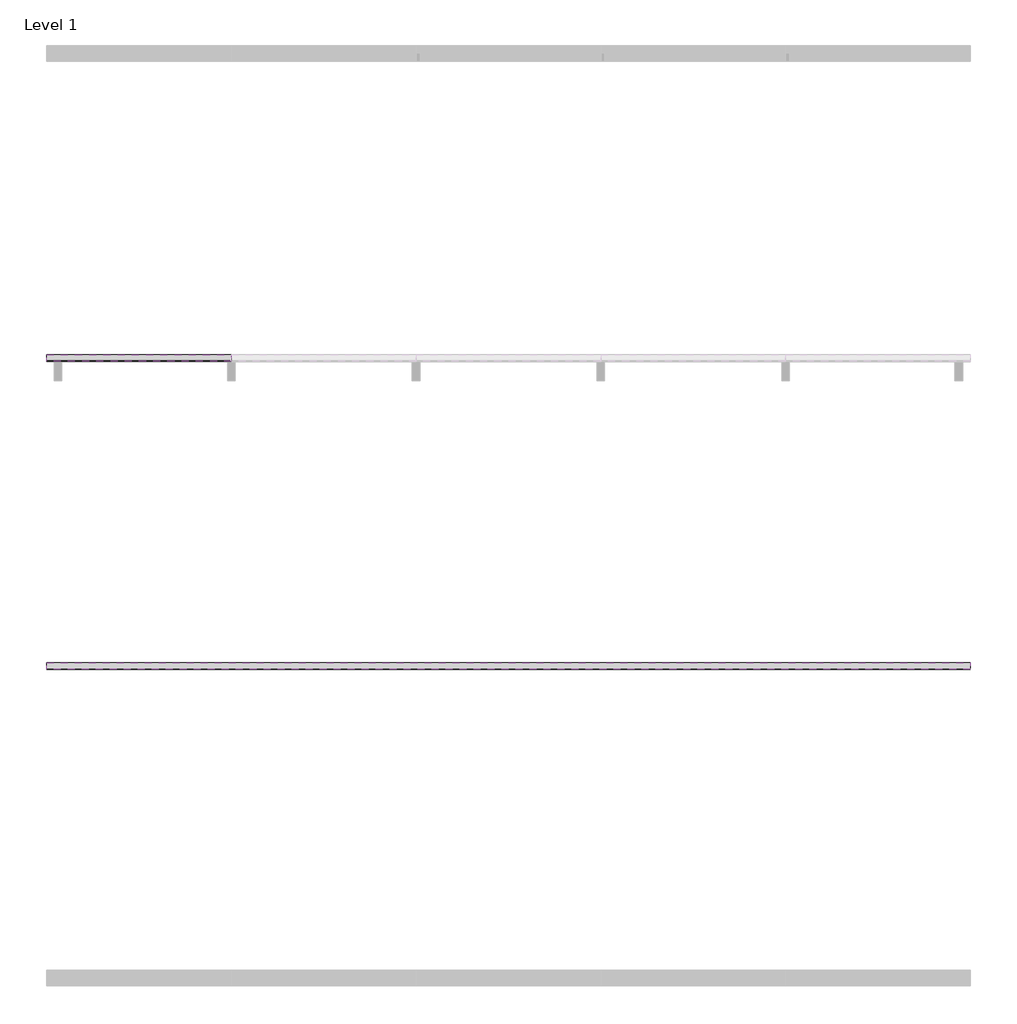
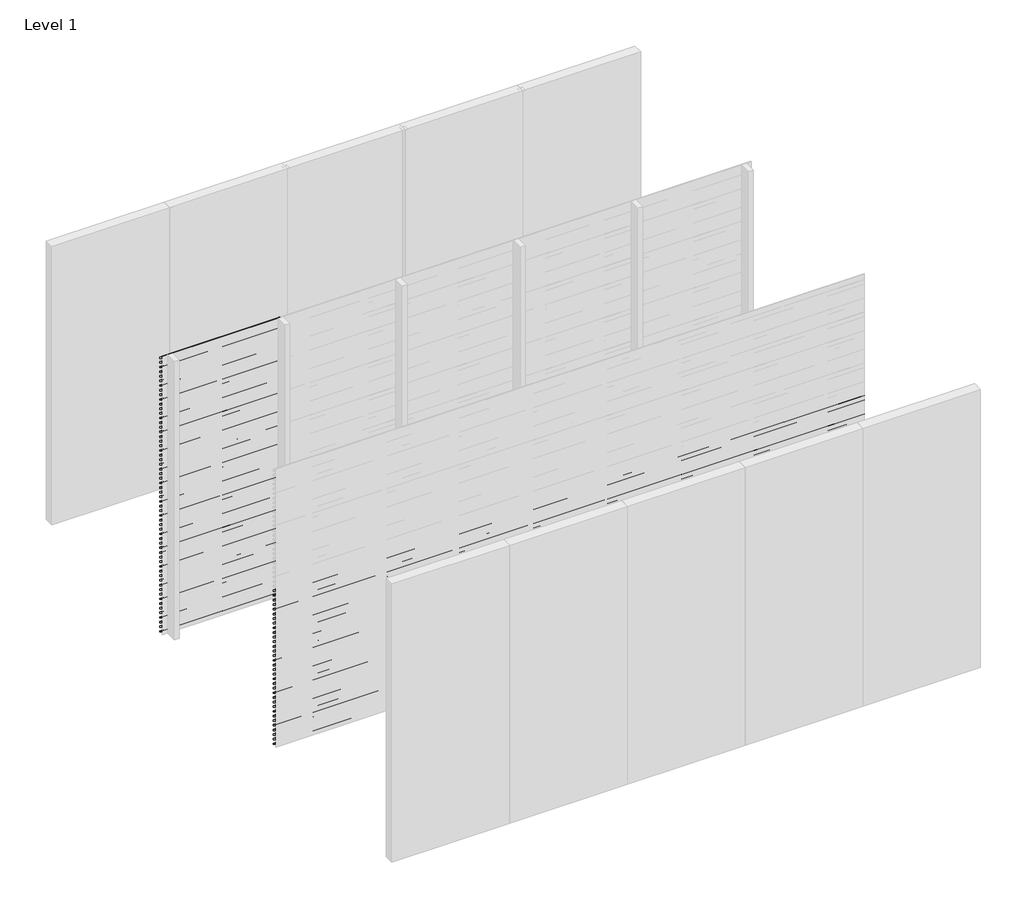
# One storey, part 2 of 16: 94 proxies.
"""IFC4 building model written with IfcOpenShell, lengths in millimetres."""

from ifc_helpers import new_model, si_unit, frame, origin, place, context, project, spatial, polyline, outline, extrude, element, save

model = new_model("IFC4")

# Units and contexts
model_context = context("Model", 3, world=origin())
ifc_project = project(units=[si_unit("LENGTHUNIT", "METRE", prefix="MILLI")], contexts=[model_context])

# Site, building, storey
site = spatial("IfcSite", under=ifc_project)
building = spatial("IfcBuilding", under=site)
storey = spatial("IfcBuildingStorey", under=building, Name="Level 1", Elevation=0.0)

# Proxies
placement = place(None, origin())
element("IfcBuildingElementProxy", 1, Name="Wall Sweeps", at=placement, inside=storey, context=model_context, shape_type="SweptSolid", body=[
    extrude(outline(polyline([(-17995.0, 3000.0), (-17995.0, 2989.6352854), (-17954.0, 2965.0), (-17954.0, 2950.0), (-17997.0, 2975.8370066), (-17997.0, 3000.0), (-17995.0, 3000.0)])), frame((0.0, 0.0, 0.0), z_axis=(1.0, 0.0, 0.0), x_axis=(0.0, 1.0, 0.0)), (0.0, 0.0, 1.0), 1200.0000002),
])
element("IfcBuildingElementProxy", 2, Name="Wall Sweeps", at=placement, inside=storey, context=model_context, shape_type="SweptSolid", body=[
    extrude(outline(polyline([(-17995.0, 2950.0), (-17995.0, 2939.6352854), (-17954.0, 2915.0), (-17954.0, 2900.0), (-17997.0, 2925.8370066), (-17997.0, 2950.0), (-17995.0, 2950.0)])), frame((0.0, 0.0, 0.0), z_axis=(1.0, 0.0, 0.0), x_axis=(0.0, 1.0, 0.0)), (0.0, 0.0, 1.0), 1200.0000002),
])
element("IfcBuildingElementProxy", 3, Name="Wall Sweeps", at=placement, inside=storey, context=model_context, shape_type="SweptSolid", body=[
    extrude(outline(polyline([(-17995.0, 2900.0), (-17995.0, 2889.6352854), (-17954.0, 2865.0), (-17954.0, 2850.0), (-17997.0, 2875.8370066), (-17997.0, 2900.0), (-17995.0, 2900.0)])), frame((0.0, 0.0, 0.0), z_axis=(1.0, 0.0, 0.0), x_axis=(0.0, 1.0, 0.0)), (0.0, 0.0, 1.0), 1200.0000002),
])
element("IfcBuildingElementProxy", 4, Name="Wall Sweeps", at=placement, inside=storey, context=model_context, shape_type="SweptSolid", body=[
    extrude(outline(polyline([(-17995.0, 2850.0), (-17995.0, 2839.6352854), (-17954.0, 2815.0), (-17954.0, 2800.0), (-17997.0, 2825.8370066), (-17997.0, 2850.0), (-17995.0, 2850.0)])), frame((0.0, 0.0, 0.0), z_axis=(1.0, 0.0, 0.0), x_axis=(0.0, 1.0, 0.0)), (0.0, 0.0, 1.0), 1200.0000002),
])
element("IfcBuildingElementProxy", 5, Name="Wall Sweeps", at=placement, inside=storey, context=model_context, shape_type="SweptSolid", body=[
    extrude(outline(polyline([(-17995.0, 2800.0), (-17995.0, 2789.6352854), (-17954.0, 2765.0), (-17954.0, 2750.0), (-17997.0, 2775.8370066), (-17997.0, 2800.0), (-17995.0, 2800.0)])), frame((0.0, 0.0, 0.0), z_axis=(1.0, 0.0, 0.0), x_axis=(0.0, 1.0, 0.0)), (0.0, 0.0, 1.0), 1200.0000002),
])
element("IfcBuildingElementProxy", 6, Name="Wall Sweeps", at=placement, inside=storey, context=model_context, shape_type="SweptSolid", body=[
    extrude(outline(polyline([(-17995.0, 2750.0), (-17995.0, 2739.6352854), (-17954.0, 2715.0), (-17954.0, 2700.0), (-17997.0, 2725.8370066), (-17997.0, 2750.0), (-17995.0, 2750.0)])), frame((0.0, 0.0, 0.0), z_axis=(1.0, 0.0, 0.0), x_axis=(0.0, 1.0, 0.0)), (0.0, 0.0, 1.0), 1200.0000002),
])
element("IfcBuildingElementProxy", 7, Name="Wall Sweeps", at=placement, inside=storey, context=model_context, shape_type="SweptSolid", body=[
    extrude(outline(polyline([(-17995.0, 2700.0), (-17995.0, 2689.6352854), (-17954.0, 2665.0), (-17954.0, 2650.0), (-17997.0, 2675.8370066), (-17997.0, 2700.0), (-17995.0, 2700.0)])), frame((0.0, 0.0, 0.0), z_axis=(1.0, 0.0, 0.0), x_axis=(0.0, 1.0, 0.0)), (0.0, 0.0, 1.0), 1200.0000002),
])
element("IfcBuildingElementProxy", 8, Name="Wall Sweeps", at=placement, inside=storey, context=model_context, shape_type="SweptSolid", body=[
    extrude(outline(polyline([(-17995.0, 2650.0), (-17995.0, 2639.6352854), (-17954.0, 2615.0), (-17954.0, 2600.0), (-17997.0, 2625.8370066), (-17997.0, 2650.0), (-17995.0, 2650.0)])), frame((0.0, 0.0, 0.0), z_axis=(1.0, 0.0, 0.0), x_axis=(0.0, 1.0, 0.0)), (0.0, 0.0, 1.0), 1200.0000002),
])
element("IfcBuildingElementProxy", 9, Name="Wall Sweeps", at=placement, inside=storey, context=model_context, shape_type="SweptSolid", body=[
    extrude(outline(polyline([(-17995.0, 2600.0), (-17995.0, 2589.6352854), (-17954.0, 2565.0), (-17954.0, 2550.0), (-17997.0, 2575.8370066), (-17997.0, 2600.0), (-17995.0, 2600.0)])), frame((0.0, 0.0, 0.0), z_axis=(1.0, 0.0, 0.0), x_axis=(0.0, 1.0, 0.0)), (0.0, 0.0, 1.0), 1200.0000002),
])
element("IfcBuildingElementProxy", 10, Name="Wall Sweeps", at=placement, inside=storey, context=model_context, shape_type="SweptSolid", body=[
    extrude(outline(polyline([(-17995.0, 2550.0), (-17995.0, 2539.6352854), (-17954.0, 2515.0), (-17954.0, 2500.0), (-17997.0, 2525.8370066), (-17997.0, 2550.0), (-17995.0, 2550.0)])), frame((0.0, 0.0, 0.0), z_axis=(1.0, 0.0, 0.0), x_axis=(0.0, 1.0, 0.0)), (0.0, 0.0, 1.0), 1200.0000002),
])
element("IfcBuildingElementProxy", 11, Name="Wall Sweeps", at=placement, inside=storey, context=model_context, shape_type="SweptSolid", body=[
    extrude(outline(polyline([(-17995.0, 2500.0), (-17995.0, 2489.6352854), (-17954.0, 2465.0), (-17954.0, 2450.0), (-17997.0, 2475.8370066), (-17997.0, 2500.0), (-17995.0, 2500.0)])), frame((0.0, 0.0, 0.0), z_axis=(1.0, 0.0, 0.0), x_axis=(0.0, 1.0, 0.0)), (0.0, 0.0, 1.0), 1200.0000002),
])
element("IfcBuildingElementProxy", 12, Name="Wall Sweeps", at=placement, inside=storey, context=model_context, shape_type="SweptSolid", body=[
    extrude(outline(polyline([(-17995.0, 2450.0), (-17995.0, 2439.6352854), (-17954.0, 2415.0), (-17954.0, 2400.0), (-17997.0, 2425.8370066), (-17997.0, 2450.0), (-17995.0, 2450.0)])), frame((0.0, 0.0, 0.0), z_axis=(1.0, 0.0, 0.0), x_axis=(0.0, 1.0, 0.0)), (0.0, 0.0, 1.0), 1200.0000002),
])
element("IfcBuildingElementProxy", 13, Name="Wall Sweeps", at=placement, inside=storey, context=model_context, shape_type="SweptSolid", body=[
    extrude(outline(polyline([(-17995.0, 2400.0), (-17995.0, 2389.6352854), (-17954.0, 2365.0), (-17954.0, 2350.0), (-17997.0, 2375.8370066), (-17997.0, 2400.0), (-17995.0, 2400.0)])), frame((0.0, 0.0, 0.0), z_axis=(1.0, 0.0, 0.0), x_axis=(0.0, 1.0, 0.0)), (0.0, 0.0, 1.0), 1200.0000002),
])
element("IfcBuildingElementProxy", 14, Name="Wall Sweeps", at=placement, inside=storey, context=model_context, shape_type="SweptSolid", body=[
    extrude(outline(polyline([(-17995.0, 2350.0), (-17995.0, 2339.6352854), (-17954.0, 2315.0), (-17954.0, 2300.0), (-17997.0, 2325.8370066), (-17997.0, 2350.0), (-17995.0, 2350.0)])), frame((0.0, 0.0, 0.0), z_axis=(1.0, 0.0, 0.0), x_axis=(0.0, 1.0, 0.0)), (0.0, 0.0, 1.0), 1200.0000002),
])
element("IfcBuildingElementProxy", 15, Name="Wall Sweeps", at=placement, inside=storey, context=model_context, shape_type="SweptSolid", body=[
    extrude(outline(polyline([(-17995.0, 2300.0), (-17995.0, 2289.6352854), (-17954.0, 2265.0), (-17954.0, 2250.0), (-17997.0, 2275.8370066), (-17997.0, 2300.0), (-17995.0, 2300.0)])), frame((0.0, 0.0, 0.0), z_axis=(1.0, 0.0, 0.0), x_axis=(0.0, 1.0, 0.0)), (0.0, 0.0, 1.0), 1200.0000002),
])
element("IfcBuildingElementProxy", 16, Name="Wall Sweeps", at=placement, inside=storey, context=model_context, shape_type="SweptSolid", body=[
    extrude(outline(polyline([(-17995.0, 2250.0), (-17995.0, 2239.6352854), (-17954.0, 2215.0), (-17954.0, 2200.0), (-17997.0, 2225.8370066), (-17997.0, 2250.0), (-17995.0, 2250.0)])), frame((0.0, 0.0, 0.0), z_axis=(1.0, 0.0, 0.0), x_axis=(0.0, 1.0, 0.0)), (0.0, 0.0, 1.0), 1200.0000002),
])
element("IfcBuildingElementProxy", 17, Name="Wall Sweeps", at=placement, inside=storey, context=model_context, shape_type="SweptSolid", body=[
    extrude(outline(polyline([(-17995.0, 2200.0), (-17995.0, 2189.6352854), (-17954.0, 2165.0), (-17954.0, 2150.0), (-17997.0, 2175.8370066), (-17997.0, 2200.0), (-17995.0, 2200.0)])), frame((0.0, 0.0, 0.0), z_axis=(1.0, 0.0, 0.0), x_axis=(0.0, 1.0, 0.0)), (0.0, 0.0, 1.0), 1200.0000002),
])
element("IfcBuildingElementProxy", 18, Name="Wall Sweeps", at=placement, inside=storey, context=model_context, shape_type="SweptSolid", body=[
    extrude(outline(polyline([(-17995.0, 2150.0), (-17995.0, 2139.6352854), (-17954.0, 2115.0), (-17954.0, 2100.0), (-17997.0, 2125.8370066), (-17997.0, 2150.0), (-17995.0, 2150.0)])), frame((0.0, 0.0, 0.0), z_axis=(1.0, 0.0, 0.0), x_axis=(0.0, 1.0, 0.0)), (0.0, 0.0, 1.0), 1200.0000002),
])
element("IfcBuildingElementProxy", 19, Name="Wall Sweeps", at=placement, inside=storey, context=model_context, shape_type="SweptSolid", body=[
    extrude(outline(polyline([(-17995.0, 2100.0), (-17995.0, 2089.6352854), (-17954.0, 2065.0), (-17954.0, 2050.0), (-17997.0, 2075.8370066), (-17997.0, 2100.0), (-17995.0, 2100.0)])), frame((0.0, 0.0, 0.0), z_axis=(1.0, 0.0, 0.0), x_axis=(0.0, 1.0, 0.0)), (0.0, 0.0, 1.0), 1200.0000002),
])
element("IfcBuildingElementProxy", 20, Name="Wall Sweeps", at=placement, inside=storey, context=model_context, shape_type="SweptSolid", body=[
    extrude(outline(polyline([(-17995.0, 2050.0), (-17995.0, 2039.6352854), (-17954.0, 2015.0), (-17954.0, 2000.0), (-17997.0, 2025.8370066), (-17997.0, 2050.0), (-17995.0, 2050.0)])), frame((0.0, 0.0, 0.0), z_axis=(1.0, 0.0, 0.0), x_axis=(0.0, 1.0, 0.0)), (0.0, 0.0, 1.0), 1200.0000002),
])
element("IfcBuildingElementProxy", 21, Name="Wall Sweeps", at=placement, inside=storey, context=model_context, shape_type="SweptSolid", body=[
    extrude(outline(polyline([(-17995.0, 2000.0), (-17995.0, 1989.6352854), (-17954.0, 1965.0), (-17954.0, 1950.0), (-17997.0, 1975.8370066), (-17997.0, 2000.0), (-17995.0, 2000.0)])), frame((0.0, 0.0, 0.0), z_axis=(1.0, 0.0, 0.0), x_axis=(0.0, 1.0, 0.0)), (0.0, 0.0, 1.0), 1200.0000002),
])
element("IfcBuildingElementProxy", 22, Name="Wall Sweeps", at=placement, inside=storey, context=model_context, shape_type="SweptSolid", body=[
    extrude(outline(polyline([(-17995.0, 1950.0), (-17995.0, 1939.6352854), (-17954.0, 1915.0), (-17954.0, 1900.0), (-17997.0, 1925.8370066), (-17997.0, 1950.0), (-17995.0, 1950.0)])), frame((0.0, 0.0, 0.0), z_axis=(1.0, 0.0, 0.0), x_axis=(0.0, 1.0, 0.0)), (0.0, 0.0, 1.0), 1200.0000002),
])
element("IfcBuildingElementProxy", 23, Name="Wall Sweeps", at=placement, inside=storey, context=model_context, shape_type="SweptSolid", body=[
    extrude(outline(polyline([(-17995.0, 1900.0), (-17995.0, 1889.6352854), (-17954.0, 1865.0), (-17954.0, 1850.0), (-17997.0, 1875.8370066), (-17997.0, 1900.0), (-17995.0, 1900.0)])), frame((0.0, 0.0, 0.0), z_axis=(1.0, 0.0, 0.0), x_axis=(0.0, 1.0, 0.0)), (0.0, 0.0, 1.0), 1200.0000002),
])
element("IfcBuildingElementProxy", 24, Name="Wall Sweeps", at=placement, inside=storey, context=model_context, shape_type="SweptSolid", body=[
    extrude(outline(polyline([(-17995.0, 1850.0), (-17995.0, 1839.6352854), (-17954.0, 1815.0), (-17954.0, 1800.0), (-17997.0, 1825.8370066), (-17997.0, 1850.0), (-17995.0, 1850.0)])), frame((0.0, 0.0, 0.0), z_axis=(1.0, 0.0, 0.0), x_axis=(0.0, 1.0, 0.0)), (0.0, 0.0, 1.0), 1200.0000002),
])
element("IfcBuildingElementProxy", 25, Name="Wall Sweeps", at=placement, inside=storey, context=model_context, shape_type="SweptSolid", body=[
    extrude(outline(polyline([(-17995.0, 1800.0), (-17995.0, 1789.6352854), (-17954.0, 1765.0), (-17954.0, 1750.0), (-17997.0, 1775.8370066), (-17997.0, 1800.0), (-17995.0, 1800.0)])), frame((0.0, 0.0, 0.0), z_axis=(1.0, 0.0, 0.0), x_axis=(0.0, 1.0, 0.0)), (0.0, 0.0, 1.0), 1200.0000002),
])
element("IfcBuildingElementProxy", 26, Name="Wall Sweeps", at=placement, inside=storey, context=model_context, shape_type="SweptSolid", body=[
    extrude(outline(polyline([(-17995.0, 1750.0), (-17995.0, 1739.6352854), (-17954.0, 1715.0), (-17954.0, 1700.0), (-17997.0, 1725.8370066), (-17997.0, 1750.0), (-17995.0, 1750.0)])), frame((0.0, 0.0, 0.0), z_axis=(1.0, 0.0, 0.0), x_axis=(0.0, 1.0, 0.0)), (0.0, 0.0, 1.0), 1200.0000002),
])
element("IfcBuildingElementProxy", 27, Name="Wall Sweeps", at=placement, inside=storey, context=model_context, shape_type="SweptSolid", body=[
    extrude(outline(polyline([(-17995.0, 1700.0), (-17995.0, 1689.6352854), (-17954.0, 1665.0), (-17954.0, 1650.0), (-17997.0, 1675.8370066), (-17997.0, 1700.0), (-17995.0, 1700.0)])), frame((0.0, 0.0, 0.0), z_axis=(1.0, 0.0, 0.0), x_axis=(0.0, 1.0, 0.0)), (0.0, 0.0, 1.0), 1200.0000002),
])
element("IfcBuildingElementProxy", 28, Name="Wall Sweeps", at=placement, inside=storey, context=model_context, shape_type="SweptSolid", body=[
    extrude(outline(polyline([(-17995.0, 1650.0), (-17995.0, 1639.6352854), (-17954.0, 1615.0), (-17954.0, 1600.0), (-17997.0, 1625.8370066), (-17997.0, 1650.0), (-17995.0, 1650.0)])), frame((0.0, 0.0, 0.0), z_axis=(1.0, 0.0, 0.0), x_axis=(0.0, 1.0, 0.0)), (0.0, 0.0, 1.0), 1200.0000002),
])
element("IfcBuildingElementProxy", 29, Name="Wall Sweeps", at=placement, inside=storey, context=model_context, shape_type="SweptSolid", body=[
    extrude(outline(polyline([(-17995.0, 1600.0), (-17995.0, 1589.6352854), (-17954.0, 1565.0), (-17954.0, 1550.0), (-17997.0, 1575.8370066), (-17997.0, 1600.0), (-17995.0, 1600.0)])), frame((0.0, 0.0, 0.0), z_axis=(1.0, 0.0, 0.0), x_axis=(0.0, 1.0, 0.0)), (0.0, 0.0, 1.0), 1200.0000002),
])
element("IfcBuildingElementProxy", 30, Name="Wall Sweeps", at=placement, inside=storey, context=model_context, shape_type="SweptSolid", body=[
    extrude(outline(polyline([(-17995.0, 1550.0), (-17995.0, 1539.6352854), (-17954.0, 1515.0), (-17954.0, 1500.0), (-17997.0, 1525.8370066), (-17997.0, 1550.0), (-17995.0, 1550.0)])), frame((0.0, 0.0, 0.0), z_axis=(1.0, 0.0, 0.0), x_axis=(0.0, 1.0, 0.0)), (0.0, 0.0, 1.0), 1200.0000002),
])
element("IfcBuildingElementProxy", 31, Name="Wall Sweeps", at=placement, inside=storey, context=model_context, shape_type="SweptSolid", body=[
    extrude(outline(polyline([(-17995.0, 1500.0), (-17995.0, 1489.6352854), (-17954.0, 1465.0), (-17954.0, 1450.0), (-17997.0, 1475.8370066), (-17997.0, 1500.0), (-17995.0, 1500.0)])), frame((0.0, 0.0, 0.0), z_axis=(1.0, 0.0, 0.0), x_axis=(0.0, 1.0, 0.0)), (0.0, 0.0, 1.0), 1200.0000002),
])
element("IfcBuildingElementProxy", 32, Name="Wall Sweeps", at=placement, inside=storey, context=model_context, shape_type="SweptSolid", body=[
    extrude(outline(polyline([(-17995.0, 1450.0), (-17995.0, 1439.6352854), (-17954.0, 1415.0), (-17954.0, 1400.0), (-17997.0, 1425.8370066), (-17997.0, 1450.0), (-17995.0, 1450.0)])), frame((0.0, 0.0, 0.0), z_axis=(1.0, 0.0, 0.0), x_axis=(0.0, 1.0, 0.0)), (0.0, 0.0, 1.0), 1200.0000002),
])
element("IfcBuildingElementProxy", 33, Name="Wall Sweeps", at=placement, inside=storey, context=model_context, shape_type="SweptSolid", body=[
    extrude(outline(polyline([(-17995.0, 1400.0), (-17995.0, 1389.6352854), (-17954.0, 1365.0), (-17954.0, 1350.0), (-17997.0, 1375.8370066), (-17997.0, 1400.0), (-17995.0, 1400.0)])), frame((0.0, 0.0, 0.0), z_axis=(1.0, 0.0, 0.0), x_axis=(0.0, 1.0, 0.0)), (0.0, 0.0, 1.0), 1200.0000002),
])
element("IfcBuildingElementProxy", 34, Name="Wall Sweeps", at=placement, inside=storey, context=model_context, shape_type="SweptSolid", body=[
    extrude(outline(polyline([(-17995.0, 1350.0), (-17995.0, 1339.6352854), (-17954.0, 1315.0), (-17954.0, 1300.0), (-17997.0, 1325.8370066), (-17997.0, 1350.0), (-17995.0, 1350.0)])), frame((0.0, 0.0, 0.0), z_axis=(1.0, 0.0, 0.0), x_axis=(0.0, 1.0, 0.0)), (0.0, 0.0, 1.0), 1200.0000002),
])
element("IfcBuildingElementProxy", 35, Name="Wall Sweeps", at=placement, inside=storey, context=model_context, shape_type="SweptSolid", body=[
    extrude(outline(polyline([(-17995.0, 1300.0), (-17995.0, 1289.6352854), (-17954.0, 1265.0), (-17954.0, 1250.0), (-17997.0, 1275.8370066), (-17997.0, 1300.0), (-17995.0, 1300.0)])), frame((0.0, 0.0, 0.0), z_axis=(1.0, 0.0, 0.0), x_axis=(0.0, 1.0, 0.0)), (0.0, 0.0, 1.0), 1200.0000002),
])
element("IfcBuildingElementProxy", 36, Name="Wall Sweeps", at=placement, inside=storey, context=model_context, shape_type="SweptSolid", body=[
    extrude(outline(polyline([(-17995.0, 1250.0), (-17995.0, 1239.6352854), (-17954.0, 1215.0), (-17954.0, 1200.0), (-17997.0, 1225.8370066), (-17997.0, 1250.0), (-17995.0, 1250.0)])), frame((0.0, 0.0, 0.0), z_axis=(1.0, 0.0, 0.0), x_axis=(0.0, 1.0, 0.0)), (0.0, 0.0, 1.0), 1200.0000002),
])
element("IfcBuildingElementProxy", 37, Name="Wall Sweeps", at=placement, inside=storey, context=model_context, shape_type="SweptSolid", body=[
    extrude(outline(polyline([(-17995.0, 1200.0), (-17995.0, 1189.6352854), (-17954.0, 1165.0), (-17954.0, 1150.0), (-17997.0, 1175.8370066), (-17997.0, 1200.0), (-17995.0, 1200.0)])), frame((0.0, 0.0, 0.0), z_axis=(1.0, 0.0, 0.0), x_axis=(0.0, 1.0, 0.0)), (0.0, 0.0, 1.0), 1200.0000002),
])
element("IfcBuildingElementProxy", 38, Name="Wall Sweeps", at=placement, inside=storey, context=model_context, shape_type="SweptSolid", body=[
    extrude(outline(polyline([(-17995.0, 1150.0), (-17995.0, 1139.6352854), (-17954.0, 1115.0), (-17954.0, 1100.0), (-17997.0, 1125.8370066), (-17997.0, 1150.0), (-17995.0, 1150.0)])), frame((0.0, 0.0, 0.0), z_axis=(1.0, 0.0, 0.0), x_axis=(0.0, 1.0, 0.0)), (0.0, 0.0, 1.0), 1200.0000002),
])
element("IfcBuildingElementProxy", 39, Name="Wall Sweeps", at=placement, inside=storey, context=model_context, shape_type="SweptSolid", body=[
    extrude(outline(polyline([(-17995.0, 1100.0), (-17995.0, 1089.6352854), (-17954.0, 1065.0), (-17954.0, 1050.0), (-17997.0, 1075.8370066), (-17997.0, 1100.0), (-17995.0, 1100.0)])), frame((0.0, 0.0, 0.0), z_axis=(1.0, 0.0, 0.0), x_axis=(0.0, 1.0, 0.0)), (0.0, 0.0, 1.0), 1200.0000002),
])
element("IfcBuildingElementProxy", 40, Name="Wall Sweeps", at=placement, inside=storey, context=model_context, shape_type="SweptSolid", body=[
    extrude(outline(polyline([(-17995.0, 1050.0), (-17995.0, 1039.6352854), (-17954.0, 1015.0), (-17954.0, 1000.0), (-17997.0, 1025.8370066), (-17997.0, 1050.0), (-17995.0, 1050.0)])), frame((0.0, 0.0, 0.0), z_axis=(1.0, 0.0, 0.0), x_axis=(0.0, 1.0, 0.0)), (0.0, 0.0, 1.0), 1200.0000002),
])
element("IfcBuildingElementProxy", 41, Name="Wall Sweeps", at=placement, inside=storey, context=model_context, shape_type="SweptSolid", body=[
    extrude(outline(polyline([(-17995.0, 1000.0), (-17995.0, 989.6352854), (-17954.0, 965.0), (-17954.0, 950.0), (-17997.0, 975.8370066), (-17997.0, 1000.0), (-17995.0, 1000.0)])), frame((0.0, 0.0, 0.0), z_axis=(1.0, 0.0, 0.0), x_axis=(0.0, 1.0, 0.0)), (0.0, 0.0, 1.0), 1200.0000002),
])
element("IfcBuildingElementProxy", 42, Name="Wall Sweeps", at=placement, inside=storey, context=model_context, shape_type="SweptSolid", body=[
    extrude(outline(polyline([(-17995.0, 950.0), (-17995.0, 939.6352854), (-17954.0, 915.0), (-17954.0, 900.0), (-17997.0, 925.8370066), (-17997.0, 950.0), (-17995.0, 950.0)])), frame((0.0, 0.0, 0.0), z_axis=(1.0, 0.0, 0.0), x_axis=(0.0, 1.0, 0.0)), (0.0, 0.0, 1.0), 1200.0000002),
])
element("IfcBuildingElementProxy", 43, Name="Wall Sweeps", at=placement, inside=storey, context=model_context, shape_type="SweptSolid", body=[
    extrude(outline(polyline([(-17995.0, 900.0), (-17995.0, 889.6352854), (-17954.0, 865.0), (-17954.0, 850.0), (-17997.0, 875.8370066), (-17997.0, 900.0), (-17995.0, 900.0)])), frame((0.0, 0.0, 0.0), z_axis=(1.0, 0.0, 0.0), x_axis=(0.0, 1.0, 0.0)), (0.0, 0.0, 1.0), 1200.0000002),
])
element("IfcBuildingElementProxy", 44, Name="Wall Sweeps", at=placement, inside=storey, context=model_context, shape_type="SweptSolid", body=[
    extrude(outline(polyline([(-17995.0, 850.0), (-17995.0, 839.6352854), (-17954.0, 815.0), (-17954.0, 800.0), (-17997.0, 825.8370066), (-17997.0, 850.0), (-17995.0, 850.0)])), frame((0.0, 0.0, 0.0), z_axis=(1.0, 0.0, 0.0), x_axis=(0.0, 1.0, 0.0)), (0.0, 0.0, 1.0), 1200.0000002),
])
element("IfcBuildingElementProxy", 45, Name="Wall Sweeps", at=placement, inside=storey, context=model_context, shape_type="SweptSolid", body=[
    extrude(outline(polyline([(-17995.0, 800.0), (-17995.0, 789.6352854), (-17954.0, 765.0), (-17954.0, 750.0), (-17997.0, 775.8370066), (-17997.0, 800.0), (-17995.0, 800.0)])), frame((0.0, 0.0, 0.0), z_axis=(1.0, 0.0, 0.0), x_axis=(0.0, 1.0, 0.0)), (0.0, 0.0, 1.0), 1200.0000002),
])
element("IfcBuildingElementProxy", 46, Name="Wall Sweeps", at=placement, inside=storey, context=model_context, shape_type="SweptSolid", body=[
    extrude(outline(polyline([(-17995.0, 750.0), (-17995.0, 739.6352854), (-17954.0, 715.0), (-17954.0, 700.0), (-17997.0, 725.8370066), (-17997.0, 750.0), (-17995.0, 750.0)])), frame((0.0, 0.0, 0.0), z_axis=(1.0, 0.0, 0.0), x_axis=(0.0, 1.0, 0.0)), (0.0, 0.0, 1.0), 1200.0000002),
])
element("IfcBuildingElementProxy", 47, Name="Wall Sweeps", at=placement, inside=storey, context=model_context, shape_type="SweptSolid", body=[
    extrude(outline(polyline([(-17995.0, 700.0), (-17995.0, 689.6352854), (-17954.0, 665.0), (-17954.0, 650.0), (-17997.0, 675.8370066), (-17997.0, 700.0), (-17995.0, 700.0)])), frame((0.0, 0.0, 0.0), z_axis=(1.0, 0.0, 0.0), x_axis=(0.0, 1.0, 0.0)), (0.0, 0.0, 1.0), 1200.0000002),
])
element("IfcBuildingElementProxy", 48, Name="Wall Sweeps", at=placement, inside=storey, context=model_context, shape_type="SweptSolid", body=[
    extrude(outline(polyline([(-17995.0, 650.0), (-17995.0, 639.6352854), (-17954.0, 615.0), (-17954.0, 600.0), (-17997.0, 625.8370066), (-17997.0, 650.0), (-17995.0, 650.0)])), frame((0.0, 0.0, 0.0), z_axis=(1.0, 0.0, 0.0), x_axis=(0.0, 1.0, 0.0)), (0.0, 0.0, 1.0), 1200.0000002),
])
element("IfcBuildingElementProxy", 49, Name="Wall Sweeps", at=placement, inside=storey, context=model_context, shape_type="SweptSolid", body=[
    extrude(outline(polyline([(-17995.0, 600.0), (-17995.0, 589.6352854), (-17954.0, 565.0), (-17954.0, 550.0), (-17997.0, 575.8370066), (-17997.0, 600.0), (-17995.0, 600.0)])), frame((0.0, 0.0, 0.0), z_axis=(1.0, 0.0, 0.0), x_axis=(0.0, 1.0, 0.0)), (0.0, 0.0, 1.0), 1200.0000002),
])
element("IfcBuildingElementProxy", 50, Name="Wall Sweeps", at=placement, inside=storey, context=model_context, shape_type="SweptSolid", body=[
    extrude(outline(polyline([(-17995.0, 550.0), (-17995.0, 539.6352854), (-17954.0, 515.0), (-17954.0, 500.0), (-17997.0, 525.8370066), (-17997.0, 550.0), (-17995.0, 550.0)])), frame((0.0, 0.0, 0.0), z_axis=(1.0, 0.0, 0.0), x_axis=(0.0, 1.0, 0.0)), (0.0, 0.0, 1.0), 1200.0000002),
])
element("IfcBuildingElementProxy", 51, Name="Wall Sweeps", at=placement, inside=storey, context=model_context, shape_type="SweptSolid", body=[
    extrude(outline(polyline([(-17995.0, 500.0), (-17995.0, 489.6352854), (-17954.0, 465.0), (-17954.0, 450.0), (-17997.0, 475.8370066), (-17997.0, 500.0), (-17995.0, 500.0)])), frame((0.0, 0.0, 0.0), z_axis=(1.0, 0.0, 0.0), x_axis=(0.0, 1.0, 0.0)), (0.0, 0.0, 1.0), 1200.0000002),
])
element("IfcBuildingElementProxy", 52, Name="Wall Sweeps", at=placement, inside=storey, context=model_context, shape_type="SweptSolid", body=[
    extrude(outline(polyline([(-17995.0, 450.0), (-17995.0, 439.6352854), (-17954.0, 415.0), (-17954.0, 400.0), (-17997.0, 425.8370066), (-17997.0, 450.0), (-17995.0, 450.0)])), frame((0.0, 0.0, 0.0), z_axis=(1.0, 0.0, 0.0), x_axis=(0.0, 1.0, 0.0)), (0.0, 0.0, 1.0), 1200.0000002),
])
element("IfcBuildingElementProxy", 53, Name="Wall Sweeps", at=placement, inside=storey, context=model_context, shape_type="SweptSolid", body=[
    extrude(outline(polyline([(-17995.0, 400.0), (-17995.0, 389.6352854), (-17954.0, 365.0), (-17954.0, 350.0), (-17997.0, 375.8370066), (-17997.0, 400.0), (-17995.0, 400.0)])), frame((0.0, 0.0, 0.0), z_axis=(1.0, 0.0, 0.0), x_axis=(0.0, 1.0, 0.0)), (0.0, 0.0, 1.0), 1200.0000002),
])
element("IfcBuildingElementProxy", 54, Name="Wall Sweeps", at=placement, inside=storey, context=model_context, shape_type="SweptSolid", body=[
    extrude(outline(polyline([(-17995.0, 350.0), (-17995.0, 339.6352854), (-17954.0, 315.0), (-17954.0, 300.0), (-17997.0, 325.8370066), (-17997.0, 350.0), (-17995.0, 350.0)])), frame((0.0, 0.0, 0.0), z_axis=(1.0, 0.0, 0.0), x_axis=(0.0, 1.0, 0.0)), (0.0, 0.0, 1.0), 1200.0000002),
])
element("IfcBuildingElementProxy", 55, Name="Wall Sweeps", at=placement, inside=storey, context=model_context, shape_type="SweptSolid", body=[
    extrude(outline(polyline([(-17995.0, 300.0), (-17995.0, 289.6352854), (-17954.0, 265.0), (-17954.0, 250.0), (-17997.0, 275.8370066), (-17997.0, 300.0), (-17995.0, 300.0)])), frame((0.0, 0.0, 0.0), z_axis=(1.0, 0.0, 0.0), x_axis=(0.0, 1.0, 0.0)), (0.0, 0.0, 1.0), 1200.0000002),
])
element("IfcBuildingElementProxy", 56, Name="Wall Sweeps", at=placement, inside=storey, context=model_context, shape_type="SweptSolid", body=[
    extrude(outline(polyline([(-17995.0, 250.0), (-17995.0, 239.6352854), (-17954.0, 215.0), (-17954.0, 200.0), (-17997.0, 225.8370066), (-17997.0, 250.0), (-17995.0, 250.0)])), frame((0.0, 0.0, 0.0), z_axis=(1.0, 0.0, 0.0), x_axis=(0.0, 1.0, 0.0)), (0.0, 0.0, 1.0), 1200.0000002),
])
element("IfcBuildingElementProxy", 57, Name="Wall Sweeps", at=placement, inside=storey, context=model_context, shape_type="SweptSolid", body=[
    extrude(outline(polyline([(-17995.0, 200.0), (-17995.0, 189.6352854), (-17954.0, 165.0), (-17954.0, 150.0), (-17997.0, 175.8370066), (-17997.0, 200.0), (-17995.0, 200.0)])), frame((0.0, 0.0, 0.0), z_axis=(1.0, 0.0, 0.0), x_axis=(0.0, 1.0, 0.0)), (0.0, 0.0, 1.0), 1200.0000002),
])
element("IfcBuildingElementProxy", 58, Name="Wall Sweeps", at=placement, inside=storey, context=model_context, shape_type="SweptSolid", body=[
    extrude(outline(polyline([(-17995.0, 150.0), (-17995.0, 139.6352854), (-17954.0, 115.0), (-17954.0, 100.0), (-17997.0, 125.8370066), (-17997.0, 150.0), (-17995.0, 150.0)])), frame((0.0, 0.0, 0.0), z_axis=(1.0, 0.0, 0.0), x_axis=(0.0, 1.0, 0.0)), (0.0, 0.0, 1.0), 1200.0000002),
])
element("IfcBuildingElementProxy", 59, Name="Wall Sweeps", at=placement, inside=storey, context=model_context, shape_type="SweptSolid", body=[
    extrude(outline(polyline([(-17995.0, 100.0), (-17995.0, 89.6352854), (-17954.0, 65.0), (-17954.0, 50.0), (-17997.0, 75.8370066), (-17997.0, 100.0), (-17995.0, 100.0)])), frame((0.0, 0.0, 0.0), z_axis=(1.0, 0.0, 0.0), x_axis=(0.0, 1.0, 0.0)), (0.0, 0.0, 1.0), 1200.0000002),
])
element("IfcBuildingElementProxy", 60, Name="Wall Sweeps", at=placement, inside=storey, context=model_context, shape_type="SweptSolid", body=[
    extrude(outline(polyline([(-17995.0, 50.0), (-17995.0, 39.6352854), (-17954.0, 15.0), (-17954.0, 0.0), (-17997.0, 25.8370066), (-17997.0, 50.0), (-17995.0, 50.0)])), frame((0.0, 0.0, 0.0), z_axis=(1.0, 0.0, 0.0), x_axis=(0.0, 1.0, 0.0)), (0.0, 0.0, 1.0), 1200.0000002),
])
element("IfcBuildingElementProxy", 61, Name="Wall Sweeps", at=placement, inside=storey, context=model_context, shape_type="SweptSolid", body=[
    extrude(outline(polyline([(-19995.0, 1700.0), (-19995.0, 1689.6352854), (-19954.0, 1665.0), (-19954.0, 1650.0), (-19997.0, 1675.8370066), (-19997.0, 1700.0), (-19995.0, 1700.0)])), frame((0.0, 0.0, 0.0), z_axis=(1.0, 0.0, 0.0), x_axis=(0.0, 1.0, 0.0)), (0.0, 0.0, 1.0), 6000.0),
])
element("IfcBuildingElementProxy", 62, Name="Wall Sweeps", at=placement, inside=storey, context=model_context, shape_type="SweptSolid", body=[
    extrude(outline(polyline([(-19995.0, 1650.0), (-19995.0, 1639.6352854), (-19954.0, 1615.0), (-19954.0, 1600.0), (-19997.0, 1625.8370066), (-19997.0, 1650.0), (-19995.0, 1650.0)])), frame((0.0, 0.0, 0.0), z_axis=(1.0, 0.0, 0.0), x_axis=(0.0, 1.0, 0.0)), (0.0, 0.0, 1.0), 6000.0),
])
element("IfcBuildingElementProxy", 63, Name="Wall Sweeps", at=placement, inside=storey, context=model_context, shape_type="SweptSolid", body=[
    extrude(outline(polyline([(-19995.0, 1600.0), (-19995.0, 1589.6352854), (-19954.0, 1565.0), (-19954.0, 1550.0), (-19997.0, 1575.8370066), (-19997.0, 1600.0), (-19995.0, 1600.0)])), frame((0.0, 0.0, 0.0), z_axis=(1.0, 0.0, 0.0), x_axis=(0.0, 1.0, 0.0)), (0.0, 0.0, 1.0), 6000.0),
])
element("IfcBuildingElementProxy", 64, Name="Wall Sweeps", at=placement, inside=storey, context=model_context, shape_type="SweptSolid", body=[
    extrude(outline(polyline([(-19995.0, 1550.0), (-19995.0, 1539.6352854), (-19954.0, 1515.0), (-19954.0, 1500.0), (-19997.0, 1525.8370066), (-19997.0, 1550.0), (-19995.0, 1550.0)])), frame((0.0, 0.0, 0.0), z_axis=(1.0, 0.0, 0.0), x_axis=(0.0, 1.0, 0.0)), (0.0, 0.0, 1.0), 6000.0),
])
element("IfcBuildingElementProxy", 65, Name="Wall Sweeps", at=placement, inside=storey, context=model_context, shape_type="SweptSolid", body=[
    extrude(outline(polyline([(-19995.0, 1500.0), (-19995.0, 1489.6352854), (-19954.0, 1465.0), (-19954.0, 1450.0), (-19997.0, 1475.8370066), (-19997.0, 1500.0), (-19995.0, 1500.0)])), frame((0.0, 0.0, 0.0), z_axis=(1.0, 0.0, 0.0), x_axis=(0.0, 1.0, 0.0)), (0.0, 0.0, 1.0), 6000.0),
])
element("IfcBuildingElementProxy", 66, Name="Wall Sweeps", at=placement, inside=storey, context=model_context, shape_type="SweptSolid", body=[
    extrude(outline(polyline([(-19995.0, 1450.0), (-19995.0, 1439.6352854), (-19954.0, 1415.0), (-19954.0, 1400.0), (-19997.0, 1425.8370066), (-19997.0, 1450.0), (-19995.0, 1450.0)])), frame((0.0, 0.0, 0.0), z_axis=(1.0, 0.0, 0.0), x_axis=(0.0, 1.0, 0.0)), (0.0, 0.0, 1.0), 6000.0),
])
element("IfcBuildingElementProxy", 67, Name="Wall Sweeps", at=placement, inside=storey, context=model_context, shape_type="SweptSolid", body=[
    extrude(outline(polyline([(-19995.0, 1400.0), (-19995.0, 1389.6352854), (-19954.0, 1365.0), (-19954.0, 1350.0), (-19997.0, 1375.8370066), (-19997.0, 1400.0), (-19995.0, 1400.0)])), frame((0.0, 0.0, 0.0), z_axis=(1.0, 0.0, 0.0), x_axis=(0.0, 1.0, 0.0)), (0.0, 0.0, 1.0), 6000.0),
])
element("IfcBuildingElementProxy", 68, Name="Wall Sweeps", at=placement, inside=storey, context=model_context, shape_type="SweptSolid", body=[
    extrude(outline(polyline([(-19995.0, 1350.0), (-19995.0, 1339.6352854), (-19954.0, 1315.0), (-19954.0, 1300.0), (-19997.0, 1325.8370066), (-19997.0, 1350.0), (-19995.0, 1350.0)])), frame((0.0, 0.0, 0.0), z_axis=(1.0, 0.0, 0.0), x_axis=(0.0, 1.0, 0.0)), (0.0, 0.0, 1.0), 6000.0),
])
element("IfcBuildingElementProxy", 69, Name="Wall Sweeps", at=placement, inside=storey, context=model_context, shape_type="SweptSolid", body=[
    extrude(outline(polyline([(-19995.0, 1300.0), (-19995.0, 1289.6352854), (-19954.0, 1265.0), (-19954.0, 1250.0), (-19997.0, 1275.8370066), (-19997.0, 1300.0), (-19995.0, 1300.0)])), frame((0.0, 0.0, 0.0), z_axis=(1.0, 0.0, 0.0), x_axis=(0.0, 1.0, 0.0)), (0.0, 0.0, 1.0), 6000.0),
])
element("IfcBuildingElementProxy", 70, Name="Wall Sweeps", at=placement, inside=storey, context=model_context, shape_type="SweptSolid", body=[
    extrude(outline(polyline([(-19995.0, 1250.0), (-19995.0, 1239.6352854), (-19954.0, 1215.0), (-19954.0, 1200.0), (-19997.0, 1225.8370066), (-19997.0, 1250.0), (-19995.0, 1250.0)])), frame((0.0, 0.0, 0.0), z_axis=(1.0, 0.0, 0.0), x_axis=(0.0, 1.0, 0.0)), (0.0, 0.0, 1.0), 6000.0),
])
element("IfcBuildingElementProxy", 71, Name="Wall Sweeps", at=placement, inside=storey, context=model_context, shape_type="SweptSolid", body=[
    extrude(outline(polyline([(-19995.0, 1200.0), (-19995.0, 1189.6352854), (-19954.0, 1165.0), (-19954.0, 1150.0), (-19997.0, 1175.8370066), (-19997.0, 1200.0), (-19995.0, 1200.0)])), frame((0.0, 0.0, 0.0), z_axis=(1.0, 0.0, 0.0), x_axis=(0.0, 1.0, 0.0)), (0.0, 0.0, 1.0), 6000.0),
])
element("IfcBuildingElementProxy", 72, Name="Wall Sweeps", at=placement, inside=storey, context=model_context, shape_type="SweptSolid", body=[
    extrude(outline(polyline([(-19995.0, 1150.0), (-19995.0, 1139.6352854), (-19954.0, 1115.0), (-19954.0, 1100.0), (-19997.0, 1125.8370066), (-19997.0, 1150.0), (-19995.0, 1150.0)])), frame((0.0, 0.0, 0.0), z_axis=(1.0, 0.0, 0.0), x_axis=(0.0, 1.0, 0.0)), (0.0, 0.0, 1.0), 6000.0),
])
element("IfcBuildingElementProxy", 73, Name="Wall Sweeps", at=placement, inside=storey, context=model_context, shape_type="SweptSolid", body=[
    extrude(outline(polyline([(-19995.0, 1100.0), (-19995.0, 1089.6352854), (-19954.0, 1065.0), (-19954.0, 1050.0), (-19997.0, 1075.8370066), (-19997.0, 1100.0), (-19995.0, 1100.0)])), frame((0.0, 0.0, 0.0), z_axis=(1.0, 0.0, 0.0), x_axis=(0.0, 1.0, 0.0)), (0.0, 0.0, 1.0), 6000.0),
])
element("IfcBuildingElementProxy", 74, Name="Wall Sweeps", at=placement, inside=storey, context=model_context, shape_type="SweptSolid", body=[
    extrude(outline(polyline([(-19995.0, 1050.0), (-19995.0, 1039.6352854), (-19954.0, 1015.0), (-19954.0, 1000.0), (-19997.0, 1025.8370066), (-19997.0, 1050.0), (-19995.0, 1050.0)])), frame((0.0, 0.0, 0.0), z_axis=(1.0, 0.0, 0.0), x_axis=(0.0, 1.0, 0.0)), (0.0, 0.0, 1.0), 6000.0),
])
element("IfcBuildingElementProxy", 75, Name="Wall Sweeps", at=placement, inside=storey, context=model_context, shape_type="SweptSolid", body=[
    extrude(outline(polyline([(-19995.0, 1000.0), (-19995.0, 989.6352854), (-19954.0, 965.0), (-19954.0, 950.0), (-19997.0, 975.8370066), (-19997.0, 1000.0), (-19995.0, 1000.0)])), frame((0.0, 0.0, 0.0), z_axis=(1.0, 0.0, 0.0), x_axis=(0.0, 1.0, 0.0)), (0.0, 0.0, 1.0), 6000.0),
])
element("IfcBuildingElementProxy", 76, Name="Wall Sweeps", at=placement, inside=storey, context=model_context, shape_type="SweptSolid", body=[
    extrude(outline(polyline([(-19995.0, 950.0), (-19995.0, 939.6352854), (-19954.0, 915.0), (-19954.0, 900.0), (-19997.0, 925.8370066), (-19997.0, 950.0), (-19995.0, 950.0)])), frame((0.0, 0.0, 0.0), z_axis=(1.0, 0.0, 0.0), x_axis=(0.0, 1.0, 0.0)), (0.0, 0.0, 1.0), 6000.0),
])
element("IfcBuildingElementProxy", 77, Name="Wall Sweeps", at=placement, inside=storey, context=model_context, shape_type="SweptSolid", body=[
    extrude(outline(polyline([(-19995.0, 900.0), (-19995.0, 889.6352854), (-19954.0, 865.0), (-19954.0, 850.0), (-19997.0, 875.8370066), (-19997.0, 900.0), (-19995.0, 900.0)])), frame((0.0, 0.0, 0.0), z_axis=(1.0, 0.0, 0.0), x_axis=(0.0, 1.0, 0.0)), (0.0, 0.0, 1.0), 6000.0),
])
element("IfcBuildingElementProxy", 78, Name="Wall Sweeps", at=placement, inside=storey, context=model_context, shape_type="SweptSolid", body=[
    extrude(outline(polyline([(-19995.0, 850.0), (-19995.0, 839.6352854), (-19954.0, 815.0), (-19954.0, 800.0), (-19997.0, 825.8370066), (-19997.0, 850.0), (-19995.0, 850.0)])), frame((0.0, 0.0, 0.0), z_axis=(1.0, 0.0, 0.0), x_axis=(0.0, 1.0, 0.0)), (0.0, 0.0, 1.0), 6000.0),
])
element("IfcBuildingElementProxy", 79, Name="Wall Sweeps", at=placement, inside=storey, context=model_context, shape_type="SweptSolid", body=[
    extrude(outline(polyline([(-19995.0, 800.0), (-19995.0, 789.6352854), (-19954.0, 765.0), (-19954.0, 750.0), (-19997.0, 775.8370066), (-19997.0, 800.0), (-19995.0, 800.0)])), frame((0.0, 0.0, 0.0), z_axis=(1.0, 0.0, 0.0), x_axis=(0.0, 1.0, 0.0)), (0.0, 0.0, 1.0), 6000.0),
])
element("IfcBuildingElementProxy", 80, Name="Wall Sweeps", at=placement, inside=storey, context=model_context, shape_type="SweptSolid", body=[
    extrude(outline(polyline([(-19995.0, 750.0), (-19995.0, 739.6352854), (-19954.0, 715.0), (-19954.0, 700.0), (-19997.0, 725.8370066), (-19997.0, 750.0), (-19995.0, 750.0)])), frame((0.0, 0.0, 0.0), z_axis=(1.0, 0.0, 0.0), x_axis=(0.0, 1.0, 0.0)), (0.0, 0.0, 1.0), 6000.0),
])
element("IfcBuildingElementProxy", 81, Name="Wall Sweeps", at=placement, inside=storey, context=model_context, shape_type="SweptSolid", body=[
    extrude(outline(polyline([(-19995.0, 700.0), (-19995.0, 689.6352854), (-19954.0, 665.0), (-19954.0, 650.0), (-19997.0, 675.8370066), (-19997.0, 700.0), (-19995.0, 700.0)])), frame((0.0, 0.0, 0.0), z_axis=(1.0, 0.0, 0.0), x_axis=(0.0, 1.0, 0.0)), (0.0, 0.0, 1.0), 6000.0),
])
element("IfcBuildingElementProxy", 82, Name="Wall Sweeps", at=placement, inside=storey, context=model_context, shape_type="SweptSolid", body=[
    extrude(outline(polyline([(-19995.0, 650.0), (-19995.0, 639.6352854), (-19954.0, 615.0), (-19954.0, 600.0), (-19997.0, 625.8370066), (-19997.0, 650.0), (-19995.0, 650.0)])), frame((0.0, 0.0, 0.0), z_axis=(1.0, 0.0, 0.0), x_axis=(0.0, 1.0, 0.0)), (0.0, 0.0, 1.0), 6000.0),
])
element("IfcBuildingElementProxy", 83, Name="Wall Sweeps", at=placement, inside=storey, context=model_context, shape_type="SweptSolid", body=[
    extrude(outline(polyline([(-19995.0, 600.0), (-19995.0, 589.6352854), (-19954.0, 565.0), (-19954.0, 550.0), (-19997.0, 575.8370066), (-19997.0, 600.0), (-19995.0, 600.0)])), frame((0.0, 0.0, 0.0), z_axis=(1.0, 0.0, 0.0), x_axis=(0.0, 1.0, 0.0)), (0.0, 0.0, 1.0), 6000.0),
])
element("IfcBuildingElementProxy", 84, Name="Wall Sweeps", at=placement, inside=storey, context=model_context, shape_type="SweptSolid", body=[
    extrude(outline(polyline([(-19995.0, 550.0), (-19995.0, 539.6352854), (-19954.0, 515.0), (-19954.0, 500.0), (-19997.0, 525.8370066), (-19997.0, 550.0), (-19995.0, 550.0)])), frame((0.0, 0.0, 0.0), z_axis=(1.0, 0.0, 0.0), x_axis=(0.0, 1.0, 0.0)), (0.0, 0.0, 1.0), 6000.0),
])
element("IfcBuildingElementProxy", 85, Name="Wall Sweeps", at=placement, inside=storey, context=model_context, shape_type="SweptSolid", body=[
    extrude(outline(polyline([(-19995.0, 500.0), (-19995.0, 489.6352854), (-19954.0, 465.0), (-19954.0, 450.0), (-19997.0, 475.8370066), (-19997.0, 500.0), (-19995.0, 500.0)])), frame((0.0, 0.0, 0.0), z_axis=(1.0, 0.0, 0.0), x_axis=(0.0, 1.0, 0.0)), (0.0, 0.0, 1.0), 6000.0),
])
element("IfcBuildingElementProxy", 86, Name="Wall Sweeps", at=placement, inside=storey, context=model_context, shape_type="SweptSolid", body=[
    extrude(outline(polyline([(-19995.0, 450.0), (-19995.0, 439.6352854), (-19954.0, 415.0), (-19954.0, 400.0), (-19997.0, 425.8370066), (-19997.0, 450.0), (-19995.0, 450.0)])), frame((0.0, 0.0, 0.0), z_axis=(1.0, 0.0, 0.0), x_axis=(0.0, 1.0, 0.0)), (0.0, 0.0, 1.0), 6000.0),
])
element("IfcBuildingElementProxy", 87, Name="Wall Sweeps", at=placement, inside=storey, context=model_context, shape_type="SweptSolid", body=[
    extrude(outline(polyline([(-19995.0, 400.0), (-19995.0, 389.6352854), (-19954.0, 365.0), (-19954.0, 350.0), (-19997.0, 375.8370066), (-19997.0, 400.0), (-19995.0, 400.0)])), frame((0.0, 0.0, 0.0), z_axis=(1.0, 0.0, 0.0), x_axis=(0.0, 1.0, 0.0)), (0.0, 0.0, 1.0), 6000.0),
])
element("IfcBuildingElementProxy", 88, Name="Wall Sweeps", at=placement, inside=storey, context=model_context, shape_type="SweptSolid", body=[
    extrude(outline(polyline([(-19995.0, 350.0), (-19995.0, 339.6352854), (-19954.0, 315.0), (-19954.0, 300.0), (-19997.0, 325.8370066), (-19997.0, 350.0), (-19995.0, 350.0)])), frame((0.0, 0.0, 0.0), z_axis=(1.0, 0.0, 0.0), x_axis=(0.0, 1.0, 0.0)), (0.0, 0.0, 1.0), 6000.0),
])
element("IfcBuildingElementProxy", 89, Name="Wall Sweeps", at=placement, inside=storey, context=model_context, shape_type="SweptSolid", body=[
    extrude(outline(polyline([(-19995.0, 300.0), (-19995.0, 289.6352854), (-19954.0, 265.0), (-19954.0, 250.0), (-19997.0, 275.8370066), (-19997.0, 300.0), (-19995.0, 300.0)])), frame((0.0, 0.0, 0.0), z_axis=(1.0, 0.0, 0.0), x_axis=(0.0, 1.0, 0.0)), (0.0, 0.0, 1.0), 6000.0),
])
element("IfcBuildingElementProxy", 90, Name="Wall Sweeps", at=placement, inside=storey, context=model_context, shape_type="SweptSolid", body=[
    extrude(outline(polyline([(-19995.0, 250.0), (-19995.0, 239.6352854), (-19954.0, 215.0), (-19954.0, 200.0), (-19997.0, 225.8370066), (-19997.0, 250.0), (-19995.0, 250.0)])), frame((0.0, 0.0, 0.0), z_axis=(1.0, 0.0, 0.0), x_axis=(0.0, 1.0, 0.0)), (0.0, 0.0, 1.0), 6000.0),
])
element("IfcBuildingElementProxy", 91, Name="Wall Sweeps", at=placement, inside=storey, context=model_context, shape_type="SweptSolid", body=[
    extrude(outline(polyline([(-19995.0, 200.0), (-19995.0, 189.6352854), (-19954.0, 165.0), (-19954.0, 150.0), (-19997.0, 175.8370066), (-19997.0, 200.0), (-19995.0, 200.0)])), frame((0.0, 0.0, 0.0), z_axis=(1.0, 0.0, 0.0), x_axis=(0.0, 1.0, 0.0)), (0.0, 0.0, 1.0), 6000.0),
])
element("IfcBuildingElementProxy", 92, Name="Wall Sweeps", at=placement, inside=storey, context=model_context, shape_type="SweptSolid", body=[
    extrude(outline(polyline([(-19995.0, 150.0), (-19995.0, 139.6352854), (-19954.0, 115.0), (-19954.0, 100.0), (-19997.0, 125.8370066), (-19997.0, 150.0), (-19995.0, 150.0)])), frame((0.0, 0.0, 0.0), z_axis=(1.0, 0.0, 0.0), x_axis=(0.0, 1.0, 0.0)), (0.0, 0.0, 1.0), 6000.0),
])
element("IfcBuildingElementProxy", 93, Name="Wall Sweeps", at=placement, inside=storey, context=model_context, shape_type="SweptSolid", body=[
    extrude(outline(polyline([(-19995.0, 100.0), (-19995.0, 89.6352854), (-19954.0, 65.0), (-19954.0, 50.0), (-19997.0, 75.8370066), (-19997.0, 100.0), (-19995.0, 100.0)])), frame((0.0, 0.0, 0.0), z_axis=(1.0, 0.0, 0.0), x_axis=(0.0, 1.0, 0.0)), (0.0, 0.0, 1.0), 6000.0),
])
element("IfcBuildingElementProxy", 94, Name="Wall Sweeps", at=placement, inside=storey, context=model_context, shape_type="SweptSolid", body=[
    extrude(outline(polyline([(-19995.0, 50.0), (-19995.0, 39.6352854), (-19954.0, 15.0), (-19954.0, 0.0), (-19997.0, 25.8370066), (-19997.0, 50.0), (-19995.0, 50.0)])), frame((0.0, 0.0, 0.0), z_axis=(1.0, 0.0, 0.0), x_axis=(0.0, 1.0, 0.0)), (0.0, 0.0, 1.0), 6000.0),
])

save(model, "model.ifc")
